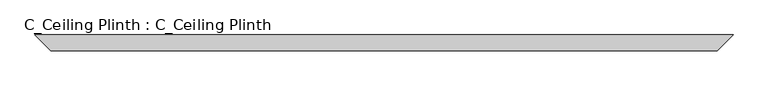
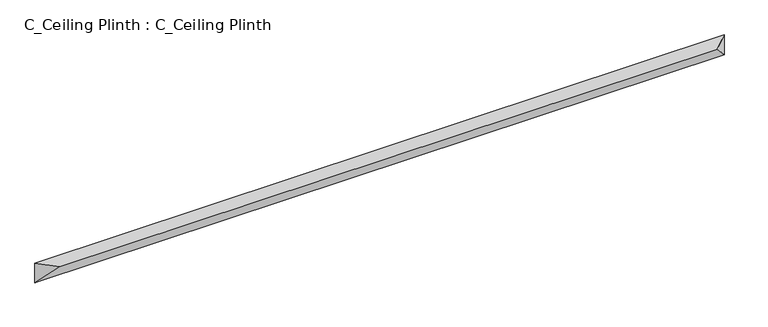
"""IFC4 building model written with IfcOpenShell, lengths in millimetres: proxy geometry, C_Ceiling Plinth : C_Ceiling Plinth."""

from ifc_helpers import new_model, si_unit, origin, place, context, project, spatial, faceted_brep, source, transform, mapped, element, save


def c_ceiling_plinth_c_ceiling_plinth_f0e8bfd6(model_context):
    return source(origin(), model_context, "Body", "Brep", [
        faceted_brep([(3352.7998973, 0.0, 0.0), (3352.7998973, 0.0, -101.6), (0.0, 0.0, -101.6), (0.0, 0.0, 0.0), (3276.5998973, -76.2, 0.0), (76.2, -76.2, 0.0)], [[[0, 1, 2, 3]], [[4, 0, 3, 5]], [[1, 4, 5, 2]], [[1, 0, 4]], [[3, 2, 5]]]),
    ])


if __name__ == "__main__":
    model = new_model("IFC4")
    model_context = context("Model", 3, world=origin())
    ifc_project = project(units=[si_unit("LENGTHUNIT", "METRE", prefix="MILLI")], contexts=[model_context])
    site = spatial("IfcSite", under=ifc_project)
    building = spatial("IfcBuilding", under=site)
    placement = place(None, origin())
    c_ceiling_plinth_c_ceiling_plinth_shape = c_ceiling_plinth_c_ceiling_plinth_f0e8bfd6(model_context)
    element("IfcBuildingElementProxy", 1, Name="C_Ceiling Plinth : C_Ceiling Plinth", ObjectType="C_Ceiling Plinth : C_Ceiling Plinth", at=placement, inside=building, context=model_context, shape_type="MappedRepresentation", body=[
        mapped(c_ceiling_plinth_c_ceiling_plinth_shape, transform((0.0, 0.0, 0.0), x_axis=(1.0, 0.0, 0.0), y_axis=(0.0, 1.0, 0.0), z_axis=(0.0, 0.0, 1.0))),
    ])
    save(model, "model.ifc")
